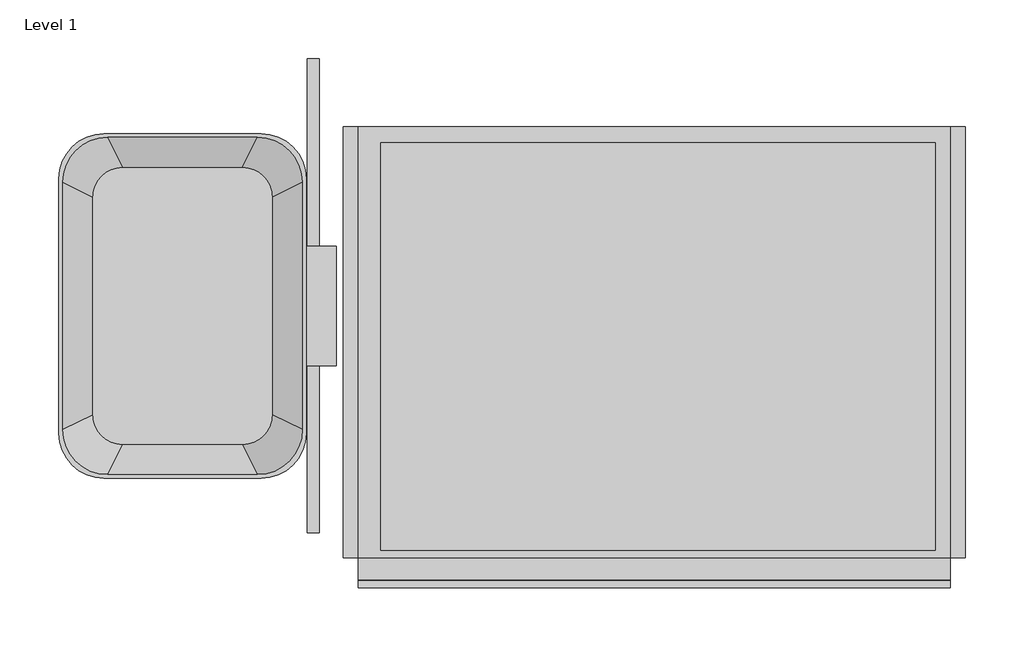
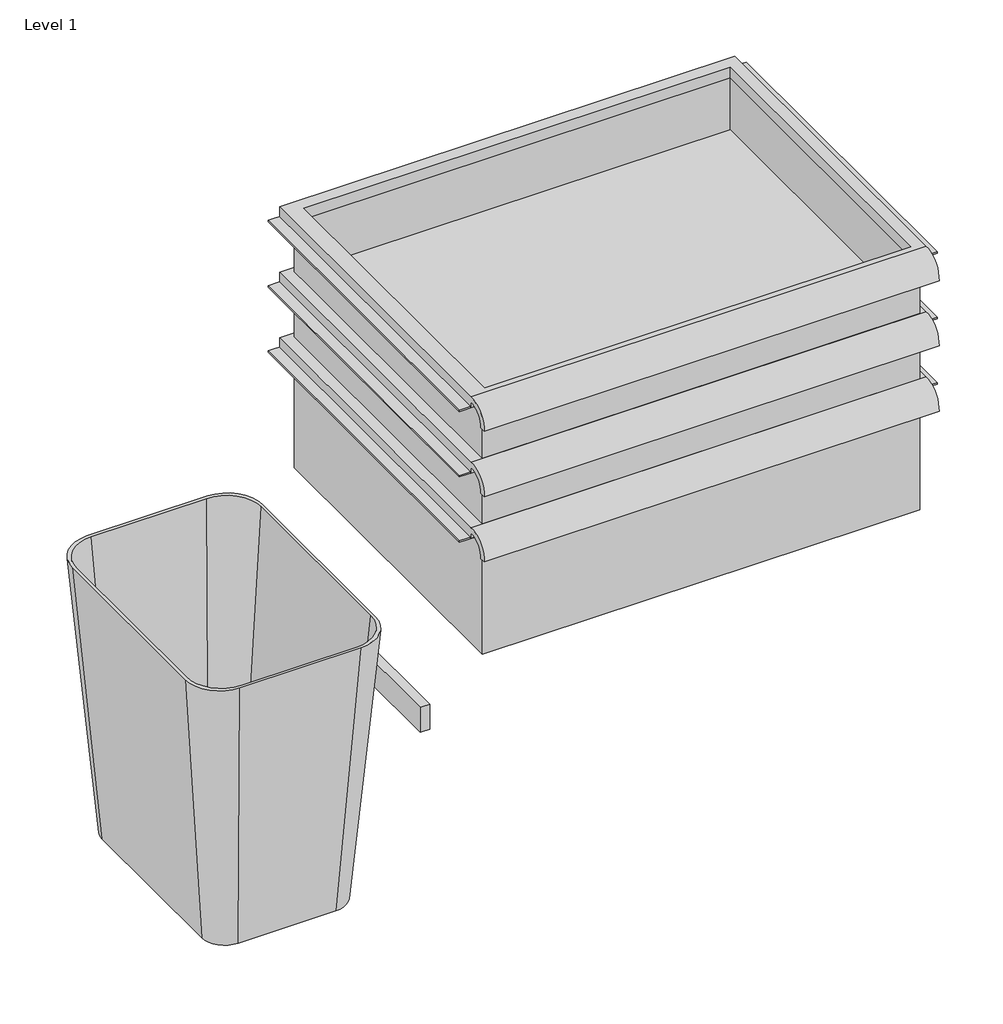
# One storey, incomplete: 5 furniture elements.
"""IFC4 building model written with IfcOpenShell, lengths in millimetres."""

from ifc_helpers import new_model, si_unit, origin, place, context, project, spatial, transform, mapped, element, save
from components import furniture_97bd5955, furniture_5a4074e1, furniture_382fb228, furniture_beea0197, furniture_5e9628dd

model = new_model("IFC4")

# Units and contexts
model_context = context("Model", 3, world=origin())
ifc_project = project(units=[si_unit("LENGTHUNIT", "METRE", prefix="MILLI")], contexts=[model_context])

# Site, building, storey
site = spatial("IfcSite", under=ifc_project)
building = spatial("IfcBuilding", under=site)
storey = spatial("IfcBuildingStorey", under=building, Name="Level 1", Elevation=0.0)

# Furniture
placement = place(None, origin())
furniture_shape = furniture_97bd5955(model_context)
element("IfcFurniture", 1, ObjectType="HermanMiller_Carts_CT501_Drawer : 3\"H x 15\"D x 20\"W", at=placement, inside=storey, context=model_context, shape_type="MappedRepresentation", body=[
    mapped(furniture_shape, transform((355.351035, -348.6147222, 0.0), x_axis=(1.0, 0.0, 0.0), y_axis=(0.0, 1.0, 0.0), z_axis=(0.0, 0.0, 1.0))),
])
furniture_2_shape = furniture_5a4074e1(model_context)
element("IfcFurniture", 2, ObjectType="HermanMiller_Carts_CT501_Drawer : 3\"H x 15\"D x 20\"W", at=placement, inside=storey, context=model_context, shape_type="MappedRepresentation", body=[
    mapped(furniture_2_shape, transform((355.351035, -348.6147222, 0.0), x_axis=(1.0, 0.0, 0.0), y_axis=(0.0, 1.0, 0.0), z_axis=(0.0, 0.0, 1.0))),
])
furniture_3_shape = furniture_382fb228(model_context)
element("IfcFurniture", 3, ObjectType="HermanMiller_Carts_CT501_Drawer : 6\"H x 15\"D x 20\"W", at=placement, inside=storey, context=model_context, shape_type="MappedRepresentation", body=[
    mapped(furniture_3_shape, transform((355.351035, -348.6147222, 0.0), x_axis=(1.0, 0.0, 0.0), y_axis=(0.0, 1.0, 0.0), z_axis=(0.0, 0.0, 1.0))),
])
furniture_4_shape = furniture_beea0197(model_context)
element("IfcFurniture", 4, ObjectType="HermanMiller_Carts_CT728_WastebasketAndHolder : 12H x 8D x 11W", at=placement, inside=storey, context=model_context, shape_type="MappedRepresentation", body=[
    mapped(furniture_4_shape, transform((-12.9428561, -451.0841043, 0.0), x_axis=(-0.999999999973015, -7.3464084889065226e-06, 0.0), y_axis=(7.3464084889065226e-06, -0.999999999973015, 0.0), z_axis=(0.0, 0.0, 1.0))),
])
furniture_5_shape = furniture_5e9628dd(model_context)
element("IfcFurniture", 5, ObjectType="HermanMiller_Carts_CT782_AccessoryRailSide : 15\"W Left Sect 2", at=placement, inside=storey, context=model_context, shape_type="MappedRepresentation", body=[
    mapped(furniture_5_shape, transform((78.9975577, -296.4177222, 0.0), x_axis=(1.0, 0.0, 0.0), y_axis=(0.0, 1.0, 0.0), z_axis=(0.0, 0.0, 1.0))),
])

save(model, "model.ifc")
